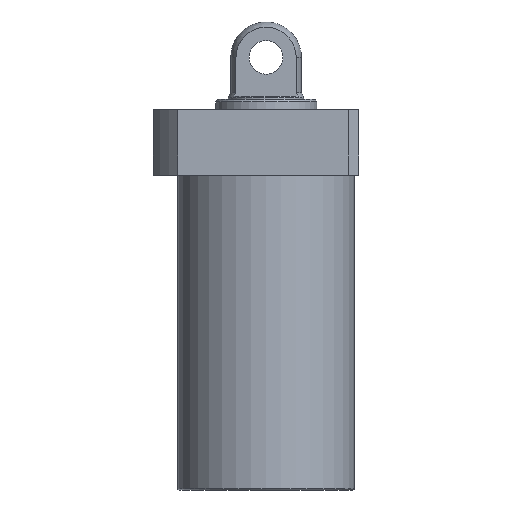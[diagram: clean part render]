
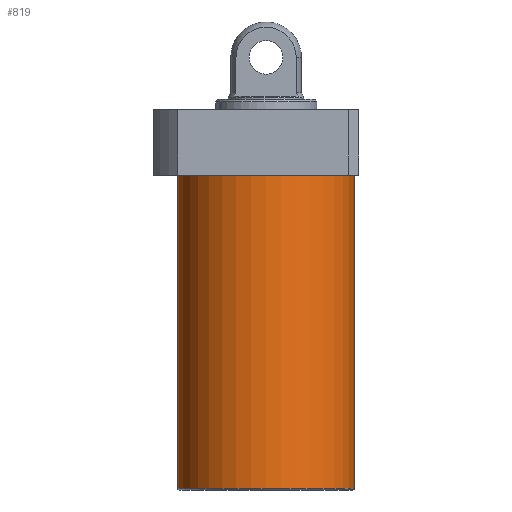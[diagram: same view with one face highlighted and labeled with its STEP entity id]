
A CAD part, front view. The second image highlights one B-rep face of the part: STEP entity #819.
In plain terms, the highlighted cylindrical face has radius 52.5 mm (diameter 105 mm), a partial arc.
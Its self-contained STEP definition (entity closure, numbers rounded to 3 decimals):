
#3 = DIRECTION ( 'NONE',  ( 1., 0., 0. ) ) ;
#13 = DIRECTION ( 'NONE',  ( 0., 0., -1. ) ) ;
#100 = VECTOR ( 'NONE', #352, 1000. ) ;
#115 = DIRECTION ( 'NONE',  ( -1., 0., 0. ) ) ;
#126 = FACE_OUTER_BOUND ( 'NONE', #1315, .T. ) ;
#162 = VERTEX_POINT ( 'NONE', #1379 ) ;
#164 = CARTESIAN_POINT ( 'NONE',  ( -52.5, 0., -19.5 ) ) ;
#222 = VECTOR ( 'NONE', #554, 1000. ) ;
#237 = VERTEX_POINT ( 'NONE', #384 ) ;
#352 = DIRECTION ( 'NONE',  ( 0., 0., 1. ) ) ;
#384 = CARTESIAN_POINT ( 'NONE',  ( 52.5, 0., -19.5 ) ) ;
#521 = EDGE_CURVE ( 'NONE', #162, #237, #696, .T. ) ;
#530 = ORIENTED_EDGE ( 'NONE', *, *, #1624, .T. ) ;
#554 = DIRECTION ( 'NONE',  ( 0., 0., 1. ) ) ;
#689 = CARTESIAN_POINT ( 'NONE',  ( 0., 0., -205.5 ) ) ;
#696 = LINE ( 'NONE', #1172, #100 ) ;
#708 = VERTEX_POINT ( 'NONE', #1669 ) ;
#719 = CARTESIAN_POINT ( 'NONE',  ( 0., 0., -206.5 ) ) ;
#739 = EDGE_CURVE ( 'NONE', #708, #162, #897, .T. ) ;
#814 = CIRCLE ( 'NONE', #1165, 52.5 ) ;
#819 = ADVANCED_FACE ( 'NONE', ( #126 ), #962, .T. ) ;
#897 = CIRCLE ( 'NONE', #1502, 52.5 ) ;
#962 = CYLINDRICAL_SURFACE ( 'NONE', #1614, 52.5 ) ;
#1165 = AXIS2_PLACEMENT_3D ( 'NONE', #1722, #13, #3 ) ;
#1172 = CARTESIAN_POINT ( 'NONE',  ( 52.5, 0., -206.5 ) ) ;
#1261 = LINE ( 'NONE', #1401, #222 ) ;
#1315 = EDGE_LOOP ( 'NONE', ( #1684, #1786, #1774, #530 ) ) ;
#1379 = CARTESIAN_POINT ( 'NONE',  ( 52.5, 0., -205.5 ) ) ;
#1401 = CARTESIAN_POINT ( 'NONE',  ( -52.5, 0., -206.5 ) ) ;
#1502 = AXIS2_PLACEMENT_3D ( 'NONE', #689, #1516, #115 ) ;
#1516 = DIRECTION ( 'NONE',  ( 0., 0., 1. ) ) ;
#1614 = AXIS2_PLACEMENT_3D ( 'NONE', #719, #1713, #1689 ) ;
#1624 = EDGE_CURVE ( 'NONE', #237, #1660, #814, .T. ) ;
#1653 = EDGE_CURVE ( 'NONE', #708, #1660, #1261, .T. ) ;
#1660 = VERTEX_POINT ( 'NONE', #164 ) ;
#1669 = CARTESIAN_POINT ( 'NONE',  ( -52.5, 0., -205.5 ) ) ;
#1684 = ORIENTED_EDGE ( 'NONE', *, *, #1653, .F. ) ;
#1689 = DIRECTION ( 'NONE',  ( 1., 0., 0. ) ) ;
#1713 = DIRECTION ( 'NONE',  ( 0., 0., 1. ) ) ;
#1722 = CARTESIAN_POINT ( 'NONE',  ( 0., 0., -19.5 ) ) ;
#1774 = ORIENTED_EDGE ( 'NONE', *, *, #521, .T. ) ;
#1786 = ORIENTED_EDGE ( 'NONE', *, *, #739, .T. ) ;
